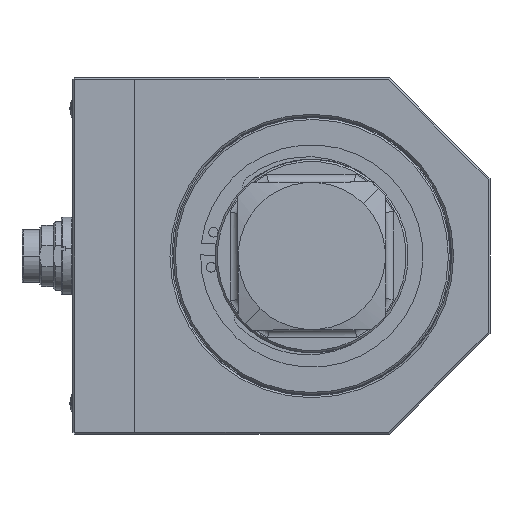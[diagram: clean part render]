
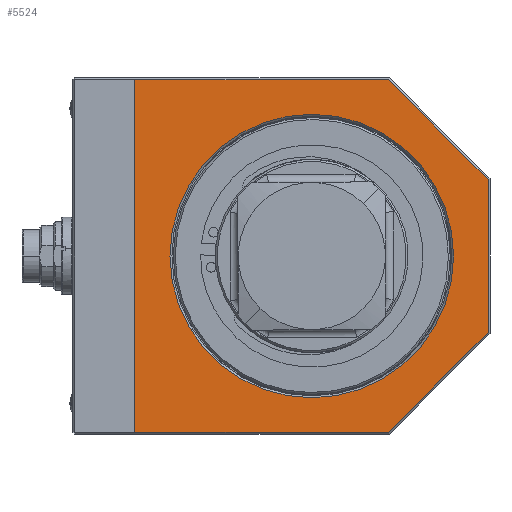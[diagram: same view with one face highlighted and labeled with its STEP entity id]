
A CAD part, left-side view. The second image highlights one B-rep face of the part: STEP entity #5524.
In plain terms, the highlighted planar face has unit normal (-1, 0, 0).
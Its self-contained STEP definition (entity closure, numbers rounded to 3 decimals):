
#110 = VECTOR ( 'NONE', #1867, 1000. ) ;
#119 = LINE ( 'NONE', #4628, #2991 ) ;
#251 = EDGE_CURVE ( 'NONE', #1604, #8193, #4198, .T. ) ;
#483 = EDGE_LOOP ( 'NONE', ( #4433, #2386, #3729, #6850, #1288, #8297 ) ) ;
#648 = VERTEX_POINT ( 'NONE', #5788 ) ;
#808 = EDGE_LOOP ( 'NONE', ( #8818, #2062 ) ) ;
#1288 = ORIENTED_EDGE ( 'NONE', *, *, #6153, .T. ) ;
#1324 = AXIS2_PLACEMENT_3D ( 'NONE', #7095, #7082, #7061 ) ;
#1371 = LINE ( 'NONE', #1456, #5147 ) ;
#1456 = CARTESIAN_POINT ( 'NONE',  ( 0., -46., -45.5 ) ) ;
#1519 = LINE ( 'NONE', #8623, #6292 ) ;
#1521 = CARTESIAN_POINT ( 'NONE',  ( 0., -19.793, 45.5 ) ) ;
#1604 = VERTEX_POINT ( 'NONE', #6554 ) ;
#1851 = VERTEX_POINT ( 'NONE', #5489 ) ;
#1867 = DIRECTION ( 'NONE',  ( 0., 1., 0. ) ) ;
#1917 = CARTESIAN_POINT ( 'NONE',  ( 0., -46., 45.5 ) ) ;
#1956 = DIRECTION ( 'NONE',  ( 0., 0., -1. ) ) ;
#1965 = DIRECTION ( 'NONE',  ( 1., 0., 0. ) ) ;
#1970 = DIRECTION ( 'NONE',  ( 0., -1., 0. ) ) ;
#1978 = CARTESIAN_POINT ( 'NONE',  ( 0., 0., 0. ) ) ;
#2062 = ORIENTED_EDGE ( 'NONE', *, *, #8556, .T. ) ;
#2126 = EDGE_CURVE ( 'NONE', #7854, #7326, #2784, .T. ) ;
#2386 = ORIENTED_EDGE ( 'NONE', *, *, #6781, .T. ) ;
#2784 = LINE ( 'NONE', #4543, #6163 ) ;
#2803 = EDGE_CURVE ( 'NONE', #6766, #3370, #5293, .T. ) ;
#2969 = FACE_BOUND ( 'NONE', #808, .T. ) ;
#2991 = VECTOR ( 'NONE', #4531, 1000. ) ;
#3116 = VECTOR ( 'NONE', #7141, 1000. ) ;
#3197 = DIRECTION ( 'NONE',  ( 0., 0., -1. ) ) ;
#3219 = DIRECTION ( 'NONE',  ( 1., 0., 0. ) ) ;
#3278 = PLANE ( 'NONE',  #7363 ) ;
#3306 = CARTESIAN_POINT ( 'NONE',  ( 0., -46., 46. ) ) ;
#3370 = VERTEX_POINT ( 'NONE', #8311 ) ;
#3465 = CARTESIAN_POINT ( 'NONE',  ( 0., -45.5, -19.793 ) ) ;
#3729 = ORIENTED_EDGE ( 'NONE', *, *, #5417, .T. ) ;
#4198 = CIRCLE ( 'NONE', #5378, 36.6 ) ;
#4433 = ORIENTED_EDGE ( 'NONE', *, *, #7474, .F. ) ;
#4531 = DIRECTION ( 'NONE',  ( 0., -0.707, 0.707 ) ) ;
#4543 = CARTESIAN_POINT ( 'NONE',  ( 0., -45.5, 46. ) ) ;
#4553 = DIRECTION ( 'NONE',  ( 0., 0., 1. ) ) ;
#4556 = CARTESIAN_POINT ( 'NONE',  ( 0., 0., -36.6 ) ) ;
#4628 = CARTESIAN_POINT ( 'NONE',  ( 0., -45.646, -19.646 ) ) ;
#4827 = FACE_OUTER_BOUND ( 'NONE', #483, .T. ) ;
#5147 = VECTOR ( 'NONE', #1970, 1000. ) ;
#5293 = LINE ( 'NONE', #1917, #110 ) ;
#5378 = AXIS2_PLACEMENT_3D ( 'NONE', #1978, #1965, #1956 ) ;
#5417 = EDGE_CURVE ( 'NONE', #648, #7854, #119, .T. ) ;
#5489 = CARTESIAN_POINT ( 'NONE',  ( 0., 45.7, -45.5 ) ) ;
#5524 = ADVANCED_FACE ( 'NONE', ( #2969, #4827 ), #3278, .F. ) ;
#5788 = CARTESIAN_POINT ( 'NONE',  ( 0., -19.793, -45.5 ) ) ;
#6153 = EDGE_CURVE ( 'NONE', #7326, #6766, #1519, .T. ) ;
#6163 = VECTOR ( 'NONE', #4553, 1000. ) ;
#6292 = VECTOR ( 'NONE', #8758, 1000. ) ;
#6554 = CARTESIAN_POINT ( 'NONE',  ( 0., 0., 36.6 ) ) ;
#6605 = CIRCLE ( 'NONE', #1324, 36.6 ) ;
#6766 = VERTEX_POINT ( 'NONE', #1521 ) ;
#6781 = EDGE_CURVE ( 'NONE', #1851, #648, #1371, .T. ) ;
#6850 = ORIENTED_EDGE ( 'NONE', *, *, #2126, .T. ) ;
#7020 = CARTESIAN_POINT ( 'NONE',  ( 0., 45.7, 46. ) ) ;
#7061 = DIRECTION ( 'NONE',  ( 0., 0., -1. ) ) ;
#7082 = DIRECTION ( 'NONE',  ( 1., 0., 0. ) ) ;
#7095 = CARTESIAN_POINT ( 'NONE',  ( 0., 0., 0. ) ) ;
#7141 = DIRECTION ( 'NONE',  ( 0., 0., 1. ) ) ;
#7326 = VERTEX_POINT ( 'NONE', #8411 ) ;
#7363 = AXIS2_PLACEMENT_3D ( 'NONE', #3306, #3219, #3197 ) ;
#7474 = EDGE_CURVE ( 'NONE', #1851, #3370, #8742, .T. ) ;
#7854 = VERTEX_POINT ( 'NONE', #3465 ) ;
#8193 = VERTEX_POINT ( 'NONE', #4556 ) ;
#8297 = ORIENTED_EDGE ( 'NONE', *, *, #2803, .T. ) ;
#8311 = CARTESIAN_POINT ( 'NONE',  ( 0., 45.7, 45.5 ) ) ;
#8411 = CARTESIAN_POINT ( 'NONE',  ( 0., -45.5, 19.793 ) ) ;
#8556 = EDGE_CURVE ( 'NONE', #8193, #1604, #6605, .T. ) ;
#8623 = CARTESIAN_POINT ( 'NONE',  ( 0., -19.646, 45.646 ) ) ;
#8742 = LINE ( 'NONE', #7020, #3116 ) ;
#8758 = DIRECTION ( 'NONE',  ( 0., 0.707, 0.707 ) ) ;
#8818 = ORIENTED_EDGE ( 'NONE', *, *, #251, .T. ) ;
